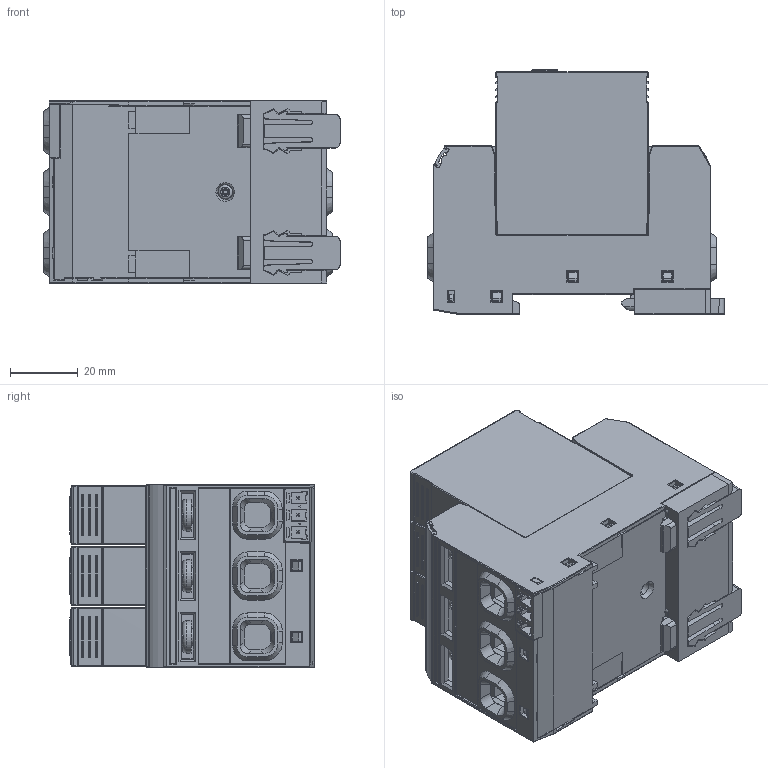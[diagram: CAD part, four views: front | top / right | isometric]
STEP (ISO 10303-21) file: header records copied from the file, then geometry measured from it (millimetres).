
FILE_DESCRIPTION( ( 'Unknown' ), '1' );
FILE_NAME( 'C:/Users/pdellaca/Desktop/Colombo 7P/S 450V 3+0 2+1 --- catalogo.stp', 'Unknown', ( 'Unknown' ), ( 'Unknown' ), 'PSStep 15.0.49', 'Unknown', ' ' );
FILE_SCHEMA( ( 'AUTOMOTIVE_DESIGN { 1 0 10303 214 1 1 1 1 }' ) );
Length unit declared in the file: millimetre
Products named in the file (40): top; 1
Bounding box: 87.55 x 72.11 x 53.82 mm (x, y, z)
Surface area: 57940.7 mm2 (no closed solid volume)
Topology: 0 solids, 1779 shells, 1779 faces, 9001 edges, 8873 vertices
Faces by surface type: plane 1032, cylinder 465, torus 77, cone 67, bspline 50, sphere 50, extrusion 20, revolution 18
Full cylindrical faces by diameter (mm): 5 x3, 9.5 x3
Entity records: 106573 total; most frequent: CARTESIAN_POINT 25634, DIRECTION 13728, ORIENTED_EDGE 8853, EDGE_CURVE 8853, VERTEX_POINT 8853, VECTOR 5956, LINE 5936, AXIS2_PLACEMENT_3D 3877
